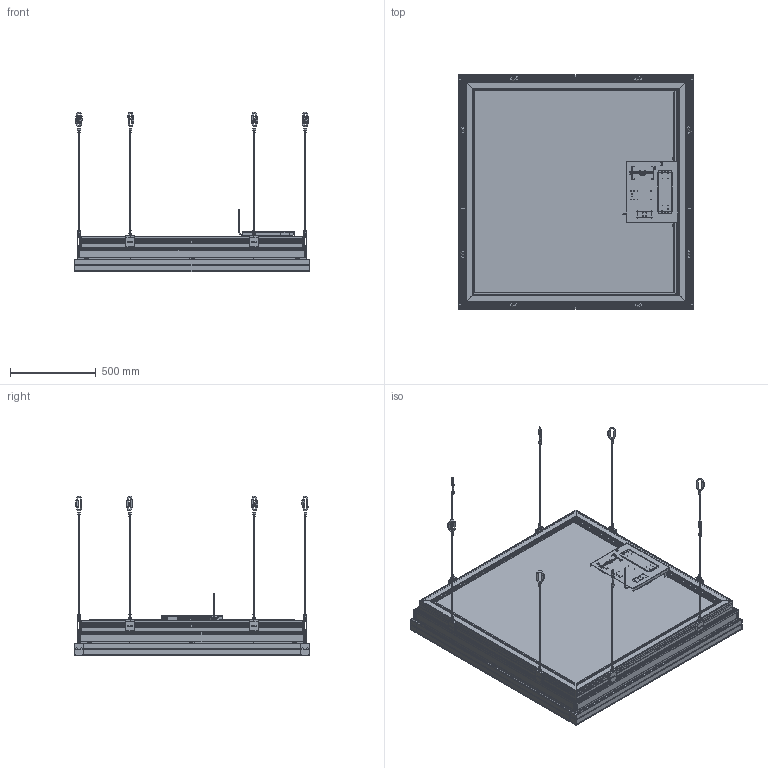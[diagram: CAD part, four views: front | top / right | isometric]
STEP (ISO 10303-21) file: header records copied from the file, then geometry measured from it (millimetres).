
FILE_DESCRIPTION (( 'STEP AP203' ), '1' );
FILE_NAME ('LSL-LUMISKY-4x4-Suspended-1H-1V.STEP', '2025-06-30T18:21:09', ( '' ), ( '' ), 'SwSTEP 2.0', 'SolidWorks 2023', '' );
FILE_SCHEMA (( 'CONFIG_CONTROL_DESIGN' ));
Length unit declared in the file: millimetre
Products named in the file (60): COLLECTION _ AC JB_BX CABLE-4X4_WITH ELECTRICAL CABLE; DC JUNC ASSEM^Assem collection line V4.0-4X4_ASTRA STATIC 4P; mullion cover; secure screw V7.4; N52 magnet 8mm Green; Assem of electrical plate ASTRA 4P V4.0; Assem 1030 639; AC JUNCTION BOX V4_short; connector-4X4; extrusion for magnet V7.1; sub_assm_mullion 4x4ft_1 X 1; connector SIDE FIXED-4X4; Mirrorsmall support plate-4X4; M4 x 0.7 x12 flat screw for magnet_91294A192; long M6 nut-4X4; SUSPENSION_LUMISKY; small support plate-4X4; mounting rectangular V7.1; Assem PLUNGER from Joan 0425_released long; DC JUNCTION BOX only cover V4-4X4; PORSCHE AIRCRAFT CABLE PORCHE160803._with cable 150mm; frame 1030 and 2125 2X2 V6.0_2125<As Machined>; Part1^AC CABLE CONNECTOR WITH BX CABLE; 91290A351_Alloy Steel Socket Head Screw; Assem of gripper of lumisky V7.4; HLG-320H-24A-4X4; AC CABLE COLLETOR NUT; Molex 2pin female-4X4; track-4X4; M4 SCREW; Cover of gripper V7.4; Assem 1030 882.7; Sub_assm_cb1030 4x4ft_1 X 1; M3 x 3 Set Screw_91390A097; PORSCHE ASSEMBLE hanging cable  PO170106.; plunger-0425_2_released long; Assem OF MOUNTING RECTANGULAR with gripper V7.4_SUSPENSION CABLE; LSL-LUMISKY-4x4-Suspended-1H-1V; Assem 1030 882.7_MIRROR CHANNEL; GRID 4x4ft_1 X 1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
Assembly tree (97 placements, depth 8):
  LSL-LUMISKY-4x4-Suspended-1H-1V
    GRID 4x4ft_1 X 1
      Sub_assm_cb1030 4x4ft_1 X 1
        Assem 1030 882.7
          1030 882.7_Default<As Machined>
          Assem OF MOUNTING RECTANGULAR with gripper V7.4_SUSPENSION CABLE  x2
            mounting rectangular V7.1
            91290A351_Alloy Steel Socket Head Screw
            SUSPENSION_LUMISKY
              Assem of gripper of lumisky V7.4
                Base of gripper V7.4
                Cover of gripper V7.4
                secure screw V7.4
                M3 x 3 Set Screw_91390A097
              PORSCHE ASSEMBLE hanging cable  PO170106.
                PORSCHE AIRCRAFT CABLE PORCHE160803._with cable 150mm
                PORSCHE RAPID LINK PORCHE20160912.
            M6 washer WITH SECURE V7.1
          Assem of Aluminum extrude for magnet V7.2  x3
            extrusion for magnet V7.1
            M4 x 0.7 x12 flat screw for magnet_91294A192
            N52 magnet 8mm Green
        Assem 1030 639_MIRROR
          1030 639_Default<As Machined>
          Assem OF MOUNTING RECTANGULAR with gripper V7.4_SUSPENSION CABLE  x2
            mounting rectangular V7.1
            91290A351_Alloy Steel Socket Head Screw
            SUSPENSION_LUMISKY
              Assem of gripper of lumisky V7.4
                Base of gripper V7.4
                Cover of gripper V7.4
                secure screw V7.4
                M3 x 3 Set Screw_91390A097
              PORSCHE ASSEMBLE hanging cable  PO170106.
                PORSCHE AIRCRAFT CABLE PORCHE160803._with cable 150mm
                PORSCHE RAPID LINK PORCHE20160912.
            M6 washer WITH SECURE V7.1
          Assem of Aluminum extrude for magnet V7.2  x3
            extrusion for magnet V7.1
            M4 x 0.7 x12 flat screw for magnet_91294A192
            N52 magnet 8mm Green
        Assem 1030 639
          1030 639_Default<As Machined>
          Assem OF MOUNTING RECTANGULAR with gripper V7.4_SUSPENSION CABLE  x2
            mounting rectangular V7.1
            91290A351_Alloy Steel Socket Head Screw
            SUSPENSION_LUMISKY
              Assem of gripper of lumisky V7.4
                Base of gripper V7.4
                Cover of gripper V7.4
                secure screw V7.4
                M3 x 3 Set Screw_91390A097
              PORSCHE ASSEMBLE hanging cable  PO170106.
                PORSCHE AIRCRAFT CABLE PORCHE160803._with cable 150mm
                PORSCHE RAPID LINK PORCHE20160912.
            M6 washer WITH SECURE V7.1
          Assem of Aluminum extrude for magnet V7.2  x3
            extrusion for magnet V7.1
            M4 x 0.7 x12 flat screw for magnet_91294A192
            N52 magnet 8mm Green
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Bounding box: 1365.5 x 1365.5 x 927.67 mm (x, y, z)
Topology: 235 solids, 238 shells, 10164 faces, 27116 edges, 17415 vertices
Faces by surface type: plane 4477, cylinder 3818, bspline 927, cone 682, torus 148, sphere 112
Entity records: 161474 total; most frequent: CARTESIAN_POINT 65279, ORIENTED_EDGE 19752, DIRECTION 16990, EDGE_CURVE 9876, VERTEX_POINT 6465, LINE 6354, VECTOR 6354, AXIS2_PLACEMENT_3D 5318
